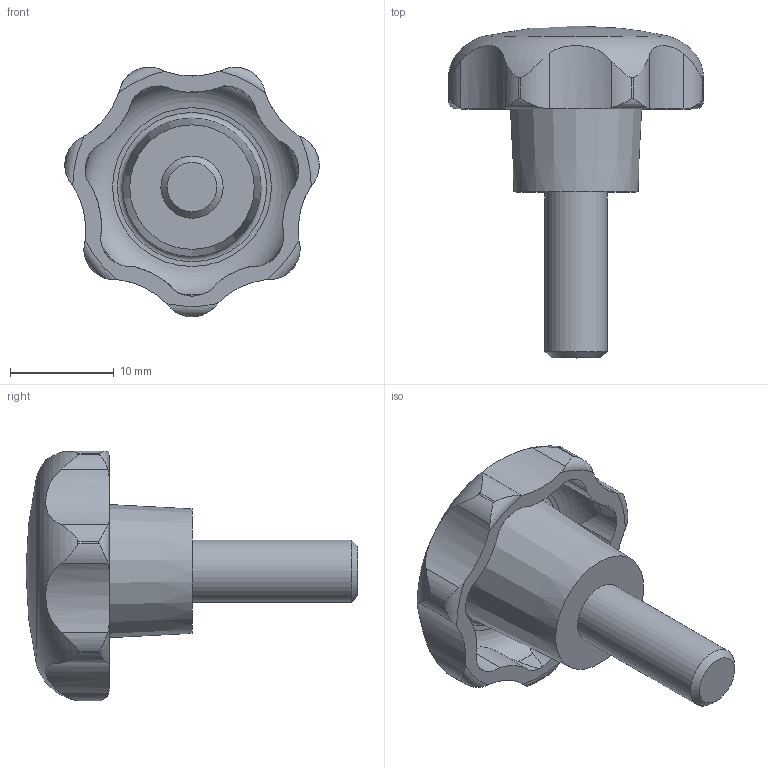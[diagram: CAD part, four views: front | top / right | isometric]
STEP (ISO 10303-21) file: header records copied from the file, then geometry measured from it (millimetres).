
FILE_DESCRIPTION( ( 'STEP AP203' ), '1' );
FILE_NAME( 'C:/Temp/Ganter_Step_05_03_2020/data/2_2/gn_6336_4/gn_6336_4_st/Star knob GN 6336.4-ST-25-M6-16.stp', '2020-03-05T12:07:15', ( 'License CC BY-ND 4.0' ), ( 'CADENAS' ), ' ', 'PARTsolutions', ' ' );
FILE_SCHEMA( ( 'CONFIG_CONTROL_DESIGN' ) );
Length unit declared in the file: millimetre
Products named in the file (1): _Star knob GN 6336.4-ST-25-M6-16
Bounding box: 24.52 x 32 x 24.06 mm (x, y, z)
Volume: 3577.6 mm3; surface area: 2314.4 mm2
Topology: 1 solids, 1 shells, 74 faces, 209 edges, 138 vertices
Faces by surface type: cylinder 50, torus 10, cone 10, plane 3, sphere 1
Full cylindrical faces by diameter (mm): 6 x1
Entity records: 3129 total; most frequent: CARTESIAN_POINT 1317, ORIENTED_EDGE 394, DIRECTION 336, EDGE_CURVE 197, AXIS2_PLACEMENT_3D 147, VERTEX_POINT 135, EDGE_LOOP 83, B_SPLINE_CURVE_WITH_KNOTS 83
